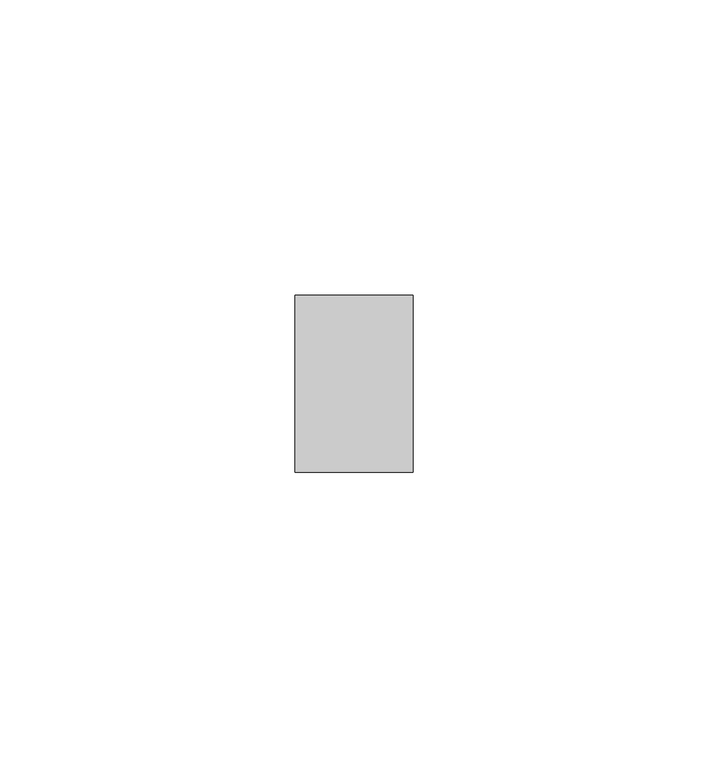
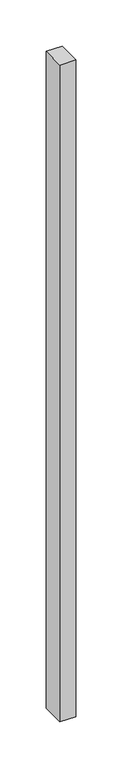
"""IFC4 building model written with IfcOpenShell, lengths in millimetres: member geometry, Прямоугольный импост : Квадрат 10 мм - Зазор между навесными плитами."""

import ifcopenshell
import ifcopenshell.guid

model = None  # the IFC model being written
_history = None  # IfcOwnerHistory: only IFC2X3 demands one
_inside = {}  # id of a spatial element -> (the spatial element, [elements in it])
_under = {}  # id of a project, library or spatial element -> (it, [spatial elements below it])
_declared = {}  # id of a project -> (the project, [libraries it declares])
_typed = {}  # id of a type object -> (the type object, [elements of that type])
_made_of = {}  # id of a material, layer set ... -> (it, [elements and type objects made of it])


def new_model(schema):
    """Start an empty IFC model of exactly this schema.

    Asked for "IFC4X3", IfcOpenShell would pick the latest addendum, in which some entities
    have other attributes; the version numbers below select the first issue.
    IFC2X3 requires an IfcOwnerHistory on every rooted entity: one is made here for all.
    """
    global model, _history
    if schema == "IFC4X3":
        model = ifcopenshell.file(schema_version=(4, 3, 0, 0))
    else:
        model = ifcopenshell.file(schema=schema)
    _inside.clear()
    _under.clear()
    _declared.clear()
    _typed.clear()
    _made_of.clear()
    _history = None
    if model.schema == "IFC2X3":
        org = make("IfcOrganization", Name="unknown")
        user = make(
            "IfcPersonAndOrganization",
            ThePerson=make("IfcPerson", FamilyName="unknown"),
            TheOrganization=org,
        )
        app = make(
            "IfcApplication",
            ApplicationDeveloper=org,
            Version="unknown",
            ApplicationFullName="unknown",
            ApplicationIdentifier="unknown",
        )
        _history = make(
            "IfcOwnerHistory",
            OwningUser=user,
            OwningApplication=app,
            ChangeAction="ADDED",
            CreationDate=0,
        )
    return model


def make(cls, **values):
    """One entity of the class cls with the attributes given. An attribute that is None is left unset."""
    return model.create_entity(
        cls, **{name: value for name, value in values.items() if value is not None}
    )


def rooted(cls, **values):
    """An entity with a GlobalId (a new one), such as an element, a storey or a relation."""
    return make(cls, GlobalId=ifcopenshell.guid.new(), OwnerHistory=_history, **values)


def si_unit(unit_type, name, prefix=None):
    """IfcSIUnit, for example si_unit("LENGTHUNIT", "METRE", prefix="MILLI")."""
    return make("IfcSIUnit", UnitType=unit_type, Prefix=prefix, Name=name)


def assignment(units):
    """IfcUnitAssignment: the units of a project."""
    return None if units is None else make("IfcUnitAssignment", Units=units)


def point(xyz):
    """IfcCartesianPoint."""
    return None if xyz is None else make("IfcCartesianPoint", Coordinates=xyz)


def direction(xyz):
    """IfcDirection."""
    return None if xyz is None else make("IfcDirection", DirectionRatios=xyz)


def frame(location, z_axis=None, x_axis=None):
    """IfcAxis2Placement3D, a coordinate frame: its origin and axes. An axis left out is left unset."""
    return make(
        "IfcAxis2Placement3D",
        Location=point(location),
        Axis=direction(z_axis),
        RefDirection=direction(x_axis),
    )


def origin():
    """The frame at (0, 0, 0) with its axes left unset."""
    return frame((0.0, 0.0, 0.0))


def place(relative_to, where):
    """IfcLocalPlacement: puts the frame where relative to a parent placement (None: the world)."""
    return make(
        "IfcLocalPlacement", PlacementRelTo=relative_to, RelativePlacement=where
    )


def context(
    kind, dimensions, precision=None, world=None, true_north=None, identifier=None
):
    """IfcGeometricRepresentationContext, for example the 3D "Model" context."""
    return make(
        "IfcGeometricRepresentationContext",
        ContextIdentifier=identifier,
        ContextType=kind,
        CoordinateSpaceDimension=dimensions,
        Precision=precision,
        WorldCoordinateSystem=world,
        TrueNorth=true_north,
    )


def project(units=None, contexts=None):
    """IfcProject with its units and contexts."""
    return rooted(
        "IfcProject",
        Name="project",
        RepresentationContexts=contexts,
        UnitsInContext=assignment(units),
    )


def spatial(cls, under=None, at=None, **own):
    """A site, building, storey or space (cls), placed at a placement, below another one or the project."""
    s = rooted(cls, ObjectPlacement=at, **own)
    if under is not None:
        _under.setdefault(under.id(), (under, []))[1].append(s)
    return s


def polyline(points):
    """IfcPolyline through the points."""
    return make("IfcPolyline", Points=[point(p) for p in points])


def outline(outer, holes=None, kind="AREA"):
    """IfcArbitraryClosedProfileDef: a profile drawn as a closed curve; with holes, ...WithVoids."""
    if holes is None:
        return make("IfcArbitraryClosedProfileDef", ProfileType=kind, OuterCurve=outer)
    return make(
        "IfcArbitraryProfileDefWithVoids",
        ProfileType=kind,
        OuterCurve=outer,
        InnerCurves=holes,
    )


def extrude(swept, where, along, depth):
    """IfcExtrudedAreaSolid: the profile swept, set in the frame where, extruded along a direction by depth."""
    return make(
        "IfcExtrudedAreaSolid",
        SweptArea=swept,
        Position=where,
        ExtrudedDirection=direction(along),
        Depth=depth,
    )


def shape(context_of_items, identifier, shape_type, items):
    """IfcShapeRepresentation: the items that make up one representation, for example the "Body"."""
    return make(
        "IfcShapeRepresentation",
        ContextOfItems=context_of_items,
        RepresentationIdentifier=identifier,
        RepresentationType=shape_type,
        Items=items,
    )


def source(mapping_origin, context_of_items, identifier, shape_type, items):
    """IfcRepresentationMap: a shape defined once, which mapped items show again and again."""
    return make(
        "IfcRepresentationMap",
        MappingOrigin=mapping_origin,
        MappedRepresentation=shape(context_of_items, identifier, shape_type, items),
    )


def transform(
    local_origin,
    x_axis=None,
    y_axis=None,
    z_axis=None,
    scale=None,
    scale2=None,
    scale3=None,
    uniform=True,
):
    """IfcCartesianTransformationOperator3D, or its non-uniform kind. x_axis, y_axis, z_axis: its Axis1, 2, 3."""
    if uniform:
        return make(
            "IfcCartesianTransformationOperator3D",
            Axis1=direction(x_axis),
            Axis2=direction(y_axis),
            LocalOrigin=point(local_origin),
            Scale=scale,
            Axis3=direction(z_axis),
        )
    return make(
        "IfcCartesianTransformationOperator3DnonUniform",
        Axis1=direction(x_axis),
        Axis2=direction(y_axis),
        LocalOrigin=point(local_origin),
        Scale=scale,
        Axis3=direction(z_axis),
        Scale2=scale2,
        Scale3=scale3,
    )


def mapped(mapping_source, mapping_target):
    """IfcMappedItem: shows the shape of a source again, moved by a transform."""
    return make(
        "IfcMappedItem", MappingSource=mapping_source, MappingTarget=mapping_target
    )


def made_of(thing, what):
    """Note that an element or type object is made of a material, layer set ...; save() writes the relation."""
    if what is not None:
        _made_of.setdefault(what.id(), (what, []))[1].append(thing)
    return thing


def element(
    cls,
    number,
    at=None,
    inside=None,
    cuts=None,
    type_object=None,
    material=None,
    context=None,
    identifier="Body",
    shape_type=None,
    held_by="IfcProductDefinitionShape",
    body=None,
    shapes=None,
    **own,
):
    """One element of the class cls, such as IfcWall. Its Tag is "e" and its number.

    at: its placement. inside: the storey or other place that contains it. cuts: it is an
    opening in that element (IfcRelVoidsElement). A single representation is given by context,
    identifier, shape_type and body (its items); several are given by shapes. held_by: the class
    of the entity that holds the representations. save() writes the other relations.
    """
    e = rooted(cls, Tag="e%d" % number, ObjectPlacement=at, **own)
    if body is not None:
        shapes = [shape(context, identifier, shape_type, body)]
    if shapes is not None:
        e.Representation = make(held_by, Representations=shapes)
    if inside is not None:
        _inside.setdefault(inside.id(), (inside, []))[1].append(e)
    if cuts is not None:
        rooted(
            "IfcRelVoidsElement", RelatingBuildingElement=cuts, RelatedOpeningElement=e
        )
    if type_object is not None:
        _typed.setdefault(type_object.id(), (type_object, []))[1].append(e)
    return made_of(e, material)


def aggregate(whole, parts):
    """IfcRelAggregates: a whole, such as a stair, and the parts it consists of."""
    return rooted("IfcRelAggregates", RelatingObject=whole, RelatedObjects=parts)


def save(model, path):
    """Write the relations noted so far, then the file.

    IfcRelAggregates (storeys below a building ...), IfcRelContainedInSpatialStructure (elements
    in a storey), IfcRelDefinesByType, IfcRelAssociatesMaterial and IfcRelDeclares: one each for
    every whole, place, type object, material and project.
    """
    for whole, parts in _under.values():
        aggregate(whole, parts)
    for where, things in _inside.values():
        rooted(
            "IfcRelContainedInSpatialStructure",
            RelatedElements=things,
            RelatingStructure=where,
        )
    for kind, things in _typed.values():
        rooted("IfcRelDefinesByType", RelatedObjects=things, RelatingType=kind)
    for what, things in _made_of.values():
        rooted("IfcRelAssociatesMaterial", RelatedObjects=things, RelatingMaterial=what)
    for by, libraries in _declared.values():
        rooted("IfcRelDeclares", RelatingContext=by, RelatedDefinitions=libraries)
    model.write(path)


def member_c68d19c8(model_context):
    return source(origin(), model_context, "Body", "SweptSolid", [
        extrude(outline(polyline([(10.0, 15.0), (10.0, -15.0), (-10.0, -15.0), (-10.0, 15.0), (10.0, 15.0)])), frame((0.0, 0.0, -870.0), z_axis=(0.0, 0.0, 1.0), x_axis=(1.0, 0.0, 0.0)), (0.0, 0.0, 1.0), 870.0),
    ])


if __name__ == "__main__":
    model = new_model("IFC4")
    model_context = context("Model", 3, world=origin())
    ifc_project = project(units=[si_unit("LENGTHUNIT", "METRE", prefix="MILLI")], contexts=[model_context])
    site = spatial("IfcSite", under=ifc_project)
    building = spatial("IfcBuilding", under=site)
    placement = place(None, origin())
    member_shape = member_c68d19c8(model_context)
    element("IfcMember", 1, ObjectType="Прямоугольный импост : Квадрат 10 мм - Зазор между навесными плитами", at=placement, inside=building, context=model_context, shape_type="MappedRepresentation", body=[
        mapped(member_shape, transform((0.0, 0.0, 0.0), x_axis=(1.0, 0.0, 0.0), y_axis=(0.0, 1.0, 0.0), z_axis=(0.0, 0.0, 1.0))),
    ])
    save(model, "model.ifc")
